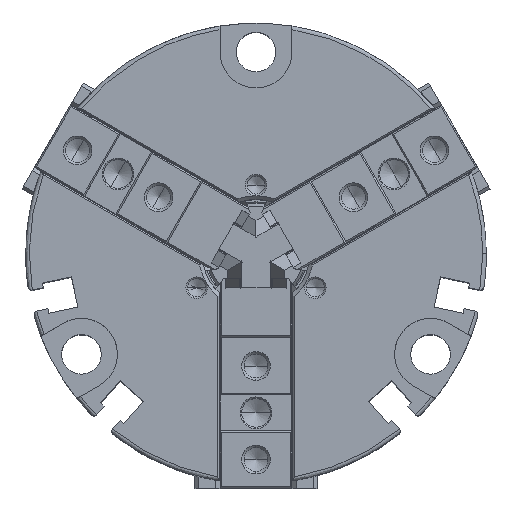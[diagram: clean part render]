
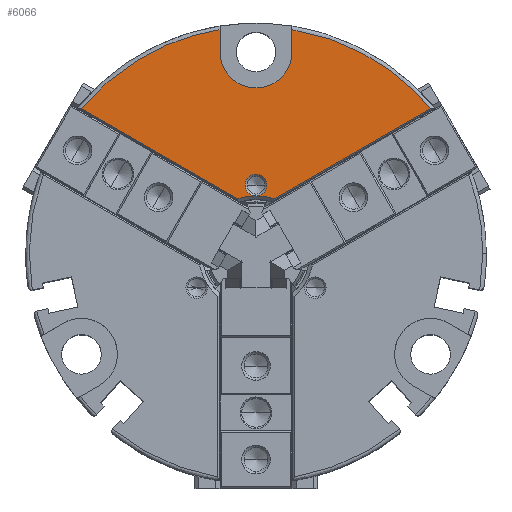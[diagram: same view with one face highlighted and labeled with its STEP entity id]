
A CAD part, top view. The second image highlights one B-rep face of the part: STEP entity #6066.
In plain terms, the highlighted planar face has unit normal (0, 0, 1).
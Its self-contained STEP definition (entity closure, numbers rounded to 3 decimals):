
#555 = LINE ( 'NONE', #20086, #556 ) ;
#556 = VECTOR ( 'NONE', #20087, 1000. ) ;
#563 = LINE ( 'NONE', #20068, #565 ) ;
#564 = CIRCLE ( 'NONE', #15858, 5. ) ;
#565 = VECTOR ( 'NONE', #20067, 1000. ) ;
#566 = LINE ( 'NONE', #20062, #567 ) ;
#567 = VECTOR ( 'NONE', #19205, 1000. ) ;
#568 = LINE ( 'NONE', #19186, #569 ) ;
#569 = VECTOR ( 'NONE', #19154, 1000. ) ;
#1720 = CARTESIAN_POINT ( 'NONE',  ( -5., 31.101, 0. ) ) ;
#1730 = CARTESIAN_POINT ( 'NONE',  ( 5., 31.101, 0. ) ) ;
#1737 = CARTESIAN_POINT ( 'NONE',  ( 24.241, 20.115, 0. ) ) ;
#1752 = CARTESIAN_POINT ( 'NONE',  ( 0., 23., 0. ) ) ;
#1781 = CARTESIAN_POINT ( 'NONE',  ( -5., 28., 0. ) ) ;
#1820 = CARTESIAN_POINT ( 'NONE',  ( -24.241, 20.115, 0. ) ) ;
#2447 = CARTESIAN_POINT ( 'NONE',  ( -1.5, 9.5, 0. ) ) ;
#2466 = CARTESIAN_POINT ( 'NONE',  ( 1.5, 9.5, 0. ) ) ;
#2533 = CARTESIAN_POINT ( 'NONE',  ( 5., 28., 0. ) ) ;
#2651 = CARTESIAN_POINT ( 'NONE',  ( 2.54, 7.586, 0. ) ) ;
#2815 = DIRECTION ( 'NONE',  ( 0., -1., 0. ) ) ;
#2816 = DIRECTION ( 'NONE',  ( 0., 0., 1. ) ) ;
#2817 = CARTESIAN_POINT ( 'NONE',  ( 0., 28., 0. ) ) ;
#3099 = CARTESIAN_POINT ( 'NONE',  ( -2.54, 7.586, 0. ) ) ;
#3168 = EDGE_CURVE ( 'NONE', #11730, #15730, #555, .T. ) ;
#3174 = EDGE_CURVE ( 'NONE', #15766, #15794, #564, .T. ) ;
#3175 = EDGE_CURVE ( 'NONE', #11673, #15807, #563, .T. ) ;
#3176 = EDGE_CURVE ( 'NONE', #15814, #15807, #3439, .T. ) ;
#3177 = EDGE_CURVE ( 'NONE', #14658, #15814, #566, .T. ) ;
#3178 = EDGE_CURVE ( 'NONE', #15824, #15766, #568, .T. ) ;
#3179 = EDGE_CURVE ( 'NONE', #15730, #15824, #3437, .T. ) ;
#3339 = EDGE_CURVE ( 'NONE', #14884, #14949, #6374, .T. ) ;
#3345 = EDGE_CURVE ( 'NONE', #11673, #11730, #6376, .T. ) ;
#3437 =( BOUNDED_CURVE ( )  B_SPLINE_CURVE ( 3, ( #19115, #19140, #19073, #19088 ),
 .UNSPECIFIED., .F., .T. ) 
 B_SPLINE_CURVE_WITH_KNOTS ( ( 4, 4 ),
 ( 0., 1. ),
 .UNSPECIFIED. ) 
 CURVE ( )  GEOMETRIC_REPRESENTATION_ITEM ( )  RATIONAL_B_SPLINE_CURVE ( ( 1., 0.957, 0.957, 1. ) ) 
 REPRESENTATION_ITEM ( '' )  );
#3439 =( BOUNDED_CURVE ( )  B_SPLINE_CURVE ( 3, ( #20065, #20066, #20063, #20064 ),
 .UNSPECIFIED., .F., .T. ) 
 B_SPLINE_CURVE_WITH_KNOTS ( ( 4, 4 ),
 ( 0., 1. ),
 .UNSPECIFIED. ) 
 CURVE ( )  GEOMETRIC_REPRESENTATION_ITEM ( )  RATIONAL_B_SPLINE_CURVE ( ( 1., 0.957, 0.957, 1. ) ) 
 REPRESENTATION_ITEM ( '' )  );
#4456 = EDGE_LOOP ( 'NONE', ( #11164, #11163, #11162, #11161, #11160, #11159, #11158, #11157, #11156 ) ) ;
#4457 = EDGE_LOOP ( 'NONE', ( #11166, #11165 ) ) ;
#4868 = EDGE_CURVE ( 'NONE', #14949, #14884, #15964, .T. ) ;
#5478 = FACE_BOUND ( 'NONE', #4457, .T. ) ;
#5479 = FACE_OUTER_BOUND ( 'NONE', #4456, .T. ) ;
#6066 = ADVANCED_FACE ( 'NONE', ( #5478, #5479 ), #14195, .F. ) ;
#6374 = CIRCLE ( 'NONE', #15900, 1.5 ) ;
#6376 = CIRCLE ( 'NONE', #15902, 8. ) ;
#6789 = AXIS2_PLACEMENT_3D ( 'NONE', #8791, #8790, #8789 ) ;
#8789 = DIRECTION ( 'NONE',  ( 1., 0., 0. ) ) ;
#8790 = DIRECTION ( 'NONE',  ( 0., 0., 1. ) ) ;
#8791 = CARTESIAN_POINT ( 'NONE',  ( 0., 9.5, 0. ) ) ;
#11156 = ORIENTED_EDGE ( 'NONE', *, *, #3179, .F. ) ;
#11157 = ORIENTED_EDGE ( 'NONE', *, *, #3178, .F. ) ;
#11158 = ORIENTED_EDGE ( 'NONE', *, *, #3174, .F. ) ;
#11159 = ORIENTED_EDGE ( 'NONE', *, *, #11885, .F. ) ;
#11160 = ORIENTED_EDGE ( 'NONE', *, *, #3177, .F. ) ;
#11161 = ORIENTED_EDGE ( 'NONE', *, *, #3176, .F. ) ;
#11162 = ORIENTED_EDGE ( 'NONE', *, *, #3175, .T. ) ;
#11163 = ORIENTED_EDGE ( 'NONE', *, *, #3345, .F. ) ;
#11164 = ORIENTED_EDGE ( 'NONE', *, *, #3168, .F. ) ;
#11165 = ORIENTED_EDGE ( 'NONE', *, *, #4868, .F. ) ;
#11166 = ORIENTED_EDGE ( 'NONE', *, *, #3339, .F. ) ;
#11673 = VERTEX_POINT ( 'NONE', #2651 ) ;
#11730 = VERTEX_POINT ( 'NONE', #3099 ) ;
#11885 = EDGE_CURVE ( 'NONE', #15794, #14658, #18841, .T. ) ;
#12226 = AXIS2_PLACEMENT_3D ( 'NONE', #2817, #2816, #2815 ) ;
#13502 = AXIS2_PLACEMENT_3D ( 'NONE', #14191, #14180, #14177 ) ;
#14177 = DIRECTION ( 'NONE',  ( -1., 0., 0. ) ) ;
#14180 = DIRECTION ( 'NONE',  ( 0., 0., -1. ) ) ;
#14191 = CARTESIAN_POINT ( 'NONE',  ( 0., 8., 0. ) ) ;
#14195 = PLANE ( 'NONE',  #13502 ) ;
#14658 = VERTEX_POINT ( 'NONE', #2533 ) ;
#14884 = VERTEX_POINT ( 'NONE', #2466 ) ;
#14949 = VERTEX_POINT ( 'NONE', #2447 ) ;
#15730 = VERTEX_POINT ( 'NONE', #1820 ) ;
#15766 = VERTEX_POINT ( 'NONE', #1781 ) ;
#15794 = VERTEX_POINT ( 'NONE', #1752 ) ;
#15807 = VERTEX_POINT ( 'NONE', #1737 ) ;
#15814 = VERTEX_POINT ( 'NONE', #1730 ) ;
#15824 = VERTEX_POINT ( 'NONE', #1720 ) ;
#15858 = AXIS2_PLACEMENT_3D ( 'NONE', #20071, #20069, #20070 ) ;
#15900 = AXIS2_PLACEMENT_3D ( 'NONE', #19395, #19382, #19372 ) ;
#15902 = AXIS2_PLACEMENT_3D ( 'NONE', #19245, #19241, #19238 ) ;
#15964 = CIRCLE ( 'NONE', #6789, 1.5 ) ;
#18841 = CIRCLE ( 'NONE', #12226, 5. ) ;
#19073 = CARTESIAN_POINT ( 'NONE',  ( -12.616, 29.876, 0. ) ) ;
#19088 = CARTESIAN_POINT ( 'NONE',  ( -5., 31.101, 0. ) ) ;
#19115 = CARTESIAN_POINT ( 'NONE',  ( -24.241, 20.115, 0. ) ) ;
#19140 = CARTESIAN_POINT ( 'NONE',  ( -19.315, 26.052, 0. ) ) ;
#19154 = DIRECTION ( 'NONE',  ( 0., -1., 0. ) ) ;
#19186 = CARTESIAN_POINT ( 'NONE',  ( -5., 34.373, 0. ) ) ;
#19205 = DIRECTION ( 'NONE',  ( 0., 1., 0. ) ) ;
#19238 = DIRECTION ( 'NONE',  ( 0., -1., 0. ) ) ;
#19241 = DIRECTION ( 'NONE',  ( 0., 0., 1. ) ) ;
#19245 = CARTESIAN_POINT ( 'NONE',  ( 0., 0., 0. ) ) ;
#19372 = DIRECTION ( 'NONE',  ( 1., 0., 0. ) ) ;
#19382 = DIRECTION ( 'NONE',  ( 0., 0., 1. ) ) ;
#19395 = CARTESIAN_POINT ( 'NONE',  ( 0., 9.5, 0. ) ) ;
#20062 = CARTESIAN_POINT ( 'NONE',  ( 5., 35.591, 0. ) ) ;
#20063 = CARTESIAN_POINT ( 'NONE',  ( 19.315, 26.052, 0. ) ) ;
#20064 = CARTESIAN_POINT ( 'NONE',  ( 24.241, 20.115, 0. ) ) ;
#20065 = CARTESIAN_POINT ( 'NONE',  ( 5., 31.101, 0. ) ) ;
#20066 = CARTESIAN_POINT ( 'NONE',  ( 12.616, 29.876, 0. ) ) ;
#20067 = DIRECTION ( 'NONE',  ( 0.866, 0.5, 0. ) ) ;
#20068 = CARTESIAN_POINT ( 'NONE',  ( 24.241, 20.115, 0. ) ) ;
#20069 = DIRECTION ( 'NONE',  ( 0., 0., 1. ) ) ;
#20070 = DIRECTION ( 'NONE',  ( 0., -1., 0. ) ) ;
#20071 = CARTESIAN_POINT ( 'NONE',  ( 0., 28., 0. ) ) ;
#20086 = CARTESIAN_POINT ( 'NONE',  ( -2.54, 7.586, 0. ) ) ;
#20087 = DIRECTION ( 'NONE',  ( -0.866, 0.5, 0. ) ) ;
